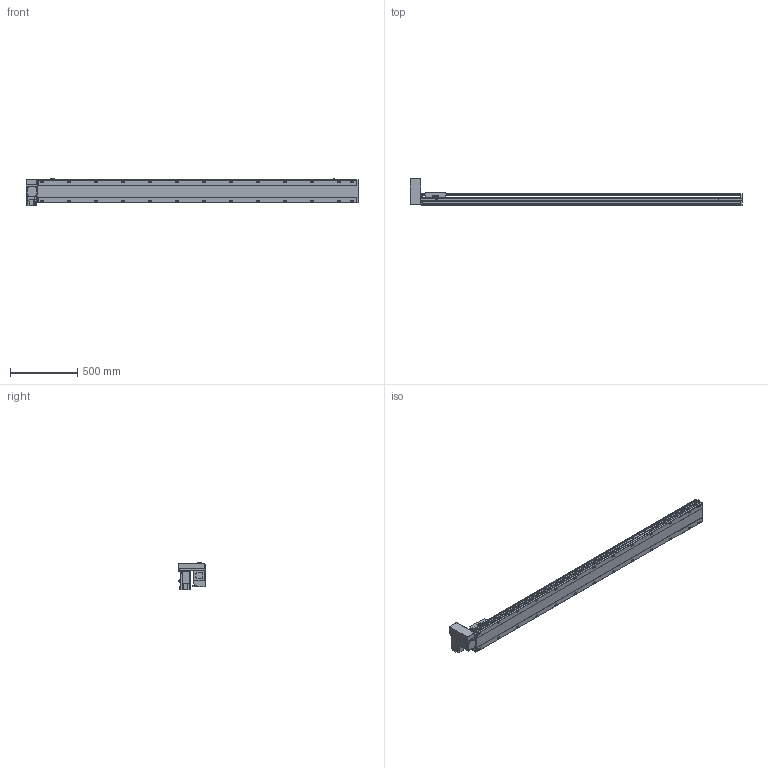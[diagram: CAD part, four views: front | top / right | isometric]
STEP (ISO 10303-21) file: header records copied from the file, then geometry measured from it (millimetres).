
FILE_DESCRIPTION(/* description */ ('STEP AP214'),/* implementation_level */ '2;1');
FILE_NAME(/* name */ 'PBS170-P40-S2100-RU-T75-C1-N(0)',/* time_stamp */ '2022-06-08T08:00:06+02:00',/* author */ ('License CC BY-ND 4.0'),/* organization */ ('CADENAS'),/* preprocessor_version */ 'ST-DEVELOPER v18.102',/* originating_system */ 'PARTsolutions',/* authorisation */ ' ');
FILE_SCHEMA (('AUTOMOTIVE_DESIGN {1 0 10303 214 3 1 1}'));
Length unit declared in the file: millimetre
Products named in the file (7): PBS170-P40-S2100-RU-T75-C1-N(0); PBS170_sensor; PBS170_plant; PBS170_sliser; T75-p1; PBS170T-RU_motors; PBS170-S2100()_body
Assembly tree (8 placements, depth 2):
  PBS170-P40-S2100-RU-T75-C1-N(0)
    PBS170_sensor  x3
    PBS170_plant
    PBS170_sliser
    T75-p1
    PBS170T-RU_motors
    PBS170-S2100()_body
Bounding box: 2463 x 206 x 205.3 mm (x, y, z)
Volume: 18827172.3 mm3; surface area: 2386226.8 mm2
Topology: 8 solids, 8 shells, 1162 faces, 3075 edges, 2004 vertices
Faces by surface type: plane 717, cylinder 379, cone 56, sphere 8, torus 2
Full cylindrical faces by diameter (mm): 3.242 x4, 4 x2, 4.4 x4, 4.5 x6, 4.917 x4, 6 x9, 6.647 x34, 7 x2, 7.5 x4, 8 x8, 8.5 x26, 10 x4, 10.5 x26, 11 x2, 30 x2, 40 x1, 70 x1
Entity records: 33408 total; most frequent: CARTESIAN_POINT 6273, DIRECTION 5650, ORIENTED_EDGE 5328, EDGE_CURVE 2664, AXIS2_PLACEMENT_3D 1987, VERTEX_POINT 1850, LINE 1676, VECTOR 1676
